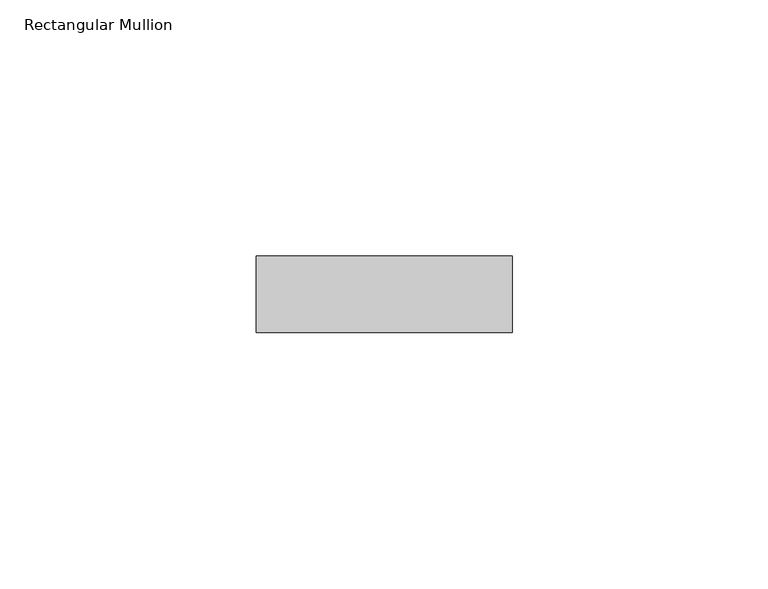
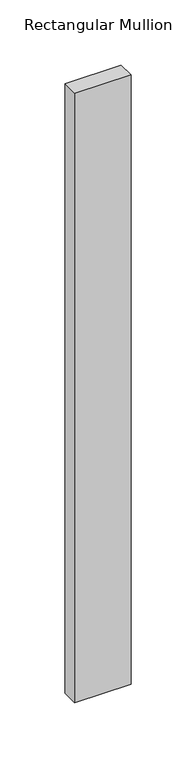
"""IFC4 building model written with IfcOpenShell, lengths in millimetres: member geometry, Rectangular Mullion : Ripa."""

from ifc_helpers import new_model, si_unit, frame, origin, place, context, project, spatial, polyline, outline, extrude, source, transform, mapped, element, save


def rectangular_mullion_d5690023(model_context):
    return source(origin(), model_context, "Body", "SweptSolid", [
        extrude(outline(polyline([(0.0, -75.0), (-50.0, -75.0), (-50.0, -60.0), (0.0, -60.0), (0.0, -75.0)])), frame((0.0, 0.0, -572.0547567), z_axis=(0.0, 0.0, 1.0), x_axis=(1.0, 0.0, 0.0)), (0.0, 0.0, 1.0), 572.0547567),
    ])


if __name__ == "__main__":
    model = new_model("IFC4")
    model_context = context("Model", 3, world=origin())
    ifc_project = project(units=[si_unit("LENGTHUNIT", "METRE", prefix="MILLI")], contexts=[model_context])
    site = spatial("IfcSite", under=ifc_project)
    building = spatial("IfcBuilding", under=site)
    placement = place(None, origin())
    rectangular_mullion_shape = rectangular_mullion_d5690023(model_context)
    element("IfcMember", 1, ObjectType="Rectangular Mullion : Ripa", at=placement, inside=building, context=model_context, shape_type="MappedRepresentation", body=[
        mapped(rectangular_mullion_shape, transform((0.0, 0.0, 0.0), x_axis=(1.0, 0.0, 0.0), y_axis=(0.0, 1.0, 0.0), z_axis=(0.0, 0.0, 1.0))),
    ])
    save(model, "model.ifc")
